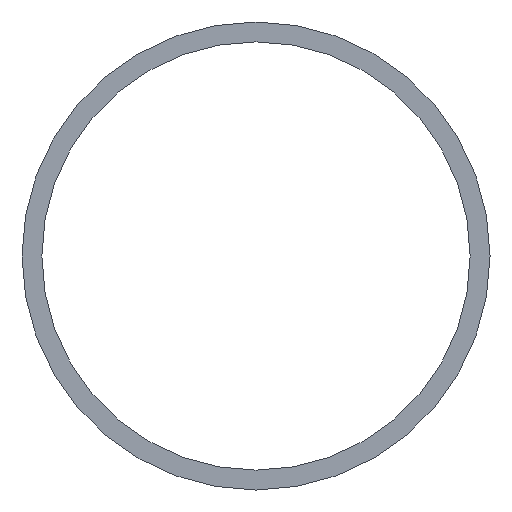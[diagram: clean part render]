
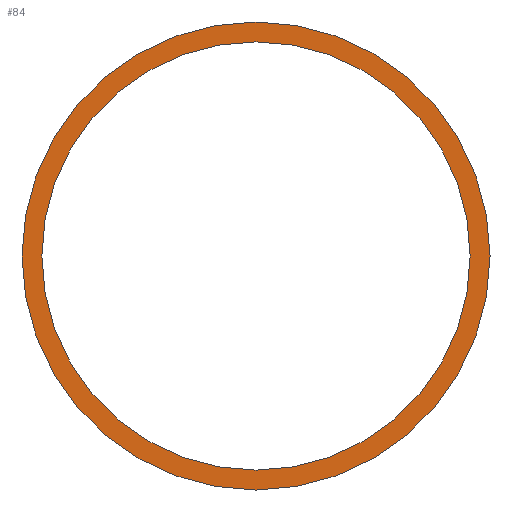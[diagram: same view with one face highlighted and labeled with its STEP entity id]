
A CAD part, front view. The second image highlights one B-rep face of the part: STEP entity #84.
In plain terms, the highlighted planar face has unit normal (0, -1, 0).
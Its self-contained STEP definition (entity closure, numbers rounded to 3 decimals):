
#24=FACE_BOUND('',#34,.T.);
#27=FACE_OUTER_BOUND('',#33,.T.);
#33=EDGE_LOOP('',(#63));
#34=EDGE_LOOP('',(#64));
#42=CIRCLE('',#105,50.);
#43=CIRCLE('',#106,45.75);
#48=VERTEX_POINT('',#147);
#49=VERTEX_POINT('',#149);
#54=EDGE_CURVE('',#48,#48,#42,.T.);
#55=EDGE_CURVE('',#49,#49,#43,.T.);
#63=ORIENTED_EDGE('',*,*,#54,.T.);
#64=ORIENTED_EDGE('',*,*,#55,.T.);
#81=PLANE('',#104);
#84=ADVANCED_FACE('',(#27,#24),#81,.F.);
#104=AXIS2_PLACEMENT_3D('',#146,#118,#119);
#105=AXIS2_PLACEMENT_3D('',#148,#120,#121);
#106=AXIS2_PLACEMENT_3D('',#150,#122,#123);
#118=DIRECTION('center_axis',(0.,1.,0.));
#119=DIRECTION('ref_axis',(1.,0.,0.));
#120=DIRECTION('center_axis',(0.,-1.,0.));
#121=DIRECTION('ref_axis',(1.,0.,0.));
#122=DIRECTION('center_axis',(0.,1.,0.));
#123=DIRECTION('ref_axis',(1.,0.,0.));
#146=CARTESIAN_POINT('Origin',(0.,-0.1,0.));
#147=CARTESIAN_POINT('',(-50.,-0.1,0.));
#148=CARTESIAN_POINT('Origin',(0.,-0.1,0.));
#149=CARTESIAN_POINT('',(-45.75,-0.1,0.));
#150=CARTESIAN_POINT('Origin',(0.,-0.1,0.));
